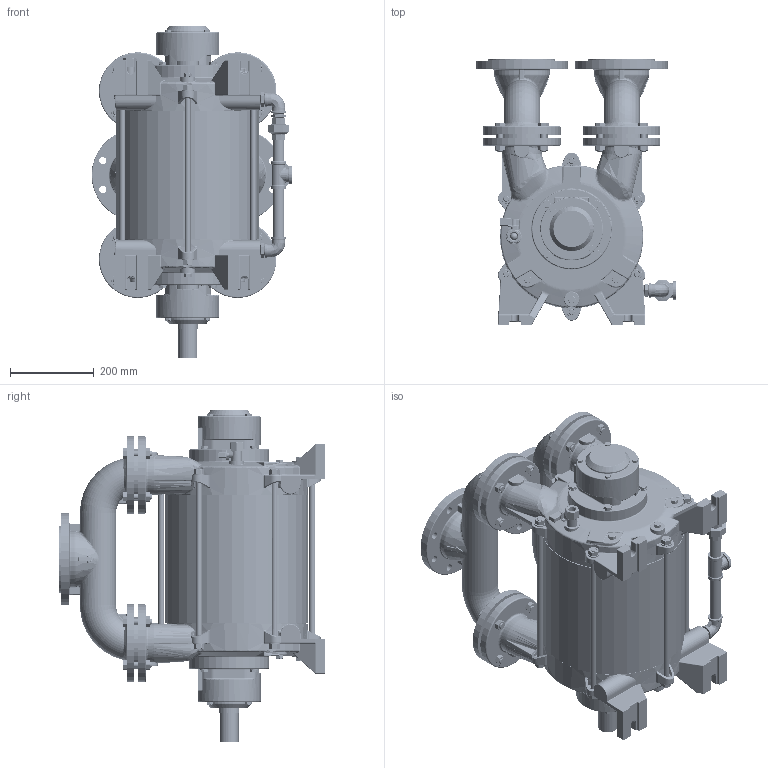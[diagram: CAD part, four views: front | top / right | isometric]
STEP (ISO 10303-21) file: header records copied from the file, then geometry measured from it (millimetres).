
FILE_DESCRIPTION (( 'STEP AP214' ), '1' );
FILE_NAME ('GMVT 275-300 MONTAJ.STEP', '2024-05-09T13:46:48', ( '' ), ( '' ), 'SwSTEP 2.0', 'SolidWorks 2024', '' );
FILE_SCHEMA (( 'AUTOMOTIVE_DESIGN' ));
Length unit declared in the file: millimetre
Products named in the file (1): GMVT 275-300 MONTAJ
Bounding box: 478.54 x 632 x 791 mm (x, y, z)
Volume: 58503967.1 mm3; surface area: 2747048.8 mm2
Topology: 55 solids, 87 shells, 5799 faces, 14087 edges, 8362 vertices
Faces by surface type: cylinder 1591, plane 1209, bspline 1129, cone 1026, torus 667, sphere 177
Entity records: 249148 total; most frequent: CARTESIAN_POINT 122397, ORIENTED_EDGE 27586, DIRECTION 25165, EDGE_CURVE 13793, AXIS2_PLACEMENT_3D 10672, VERTEX_POINT 8342, EDGE_LOOP 6181, CIRCLE 6001
